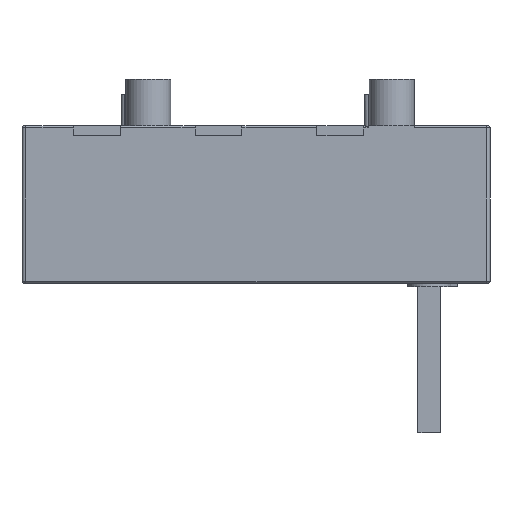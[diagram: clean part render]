
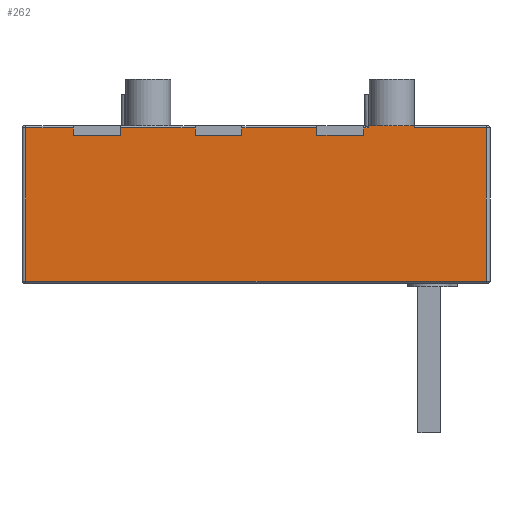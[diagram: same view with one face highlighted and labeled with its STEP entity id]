
A CAD part, front view. The second image highlights one B-rep face of the part: STEP entity #262.
In plain terms, the highlighted planar face has unit normal (0, -1, 0).
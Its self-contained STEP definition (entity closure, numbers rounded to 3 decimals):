
#133=FACE_OUTER_BOUND('',#703,.T.);
#262=ADVANCED_FACE('',(#133),#448,.T.);
#448=PLANE('',#3495);
#703=EDGE_LOOP('',(#1219,#1220,#1221,#1222,#1223,#1224,#1225,#1226,#1227,
#1228,#1229,#1230,#1231,#1232,#1233,#1234,#1235,#1236,#1237,#1238,#1239,
#1240));
#1219=ORIENTED_EDGE('',*,*,#2479,.F.);
#1220=ORIENTED_EDGE('',*,*,#2468,.T.);
#1221=ORIENTED_EDGE('',*,*,#2480,.F.);
#1222=ORIENTED_EDGE('',*,*,#2481,.F.);
#1223=ORIENTED_EDGE('',*,*,#2482,.F.);
#1224=ORIENTED_EDGE('',*,*,#2475,.T.);
#1225=ORIENTED_EDGE('',*,*,#2483,.F.);
#1226=ORIENTED_EDGE('',*,*,#2484,.T.);
#1227=ORIENTED_EDGE('',*,*,#2485,.T.);
#1228=ORIENTED_EDGE('',*,*,#2486,.T.);
#1229=ORIENTED_EDGE('',*,*,#2487,.T.);
#1230=ORIENTED_EDGE('',*,*,#2488,.F.);
#1231=ORIENTED_EDGE('',*,*,#2489,.F.);
#1232=ORIENTED_EDGE('',*,*,#2490,.T.);
#1233=ORIENTED_EDGE('',*,*,#2491,.T.);
#1234=ORIENTED_EDGE('',*,*,#2492,.T.);
#1235=ORIENTED_EDGE('',*,*,#2493,.T.);
#1236=ORIENTED_EDGE('',*,*,#2494,.T.);
#1237=ORIENTED_EDGE('',*,*,#2495,.T.);
#1238=ORIENTED_EDGE('',*,*,#2496,.T.);
#1239=ORIENTED_EDGE('',*,*,#2497,.F.);
#1240=ORIENTED_EDGE('',*,*,#2498,.F.);
#2139=VERTEX_POINT('',#4980);
#2140=VERTEX_POINT('',#4983);
#2143=VERTEX_POINT('',#4994);
#2144=VERTEX_POINT('',#4996);
#2147=VERTEX_POINT('',#5006);
#2148=VERTEX_POINT('',#5008);
#2149=VERTEX_POINT('',#5010);
#2150=VERTEX_POINT('',#5013);
#2151=VERTEX_POINT('',#5015);
#2152=VERTEX_POINT('',#5017);
#2153=VERTEX_POINT('',#5019);
#2154=VERTEX_POINT('',#5021);
#2155=VERTEX_POINT('',#5023);
#2156=VERTEX_POINT('',#5025);
#2157=VERTEX_POINT('',#5027);
#2158=VERTEX_POINT('',#5029);
#2159=VERTEX_POINT('',#5031);
#2160=VERTEX_POINT('',#5033);
#2161=VERTEX_POINT('',#5035);
#2162=VERTEX_POINT('',#5037);
#2163=VERTEX_POINT('',#5039);
#2164=VERTEX_POINT('',#5041);
#2468=EDGE_CURVE('',#2139,#2140,#2908,.T.);
#2475=EDGE_CURVE('',#2143,#2144,#2911,.T.);
#2479=EDGE_CURVE('',#2139,#2147,#2913,.T.);
#2480=EDGE_CURVE('',#2148,#2140,#2914,.T.);
#2481=EDGE_CURVE('',#2149,#2148,#2915,.T.);
#2482=EDGE_CURVE('',#2143,#2149,#2916,.T.);
#2483=EDGE_CURVE('',#2150,#2144,#2917,.T.);
#2484=EDGE_CURVE('',#2150,#2151,#2918,.T.);
#2485=EDGE_CURVE('',#2151,#2152,#2919,.T.);
#2486=EDGE_CURVE('',#2152,#2153,#2920,.T.);
#2487=EDGE_CURVE('',#2153,#2154,#2921,.T.);
#2488=EDGE_CURVE('',#2155,#2154,#2922,.T.);
#2489=EDGE_CURVE('',#2156,#2155,#2923,.T.);
#2490=EDGE_CURVE('',#2156,#2157,#2924,.T.);
#2491=EDGE_CURVE('',#2157,#2158,#2925,.T.);
#2492=EDGE_CURVE('',#2158,#2159,#2926,.T.);
#2493=EDGE_CURVE('',#2159,#2160,#2927,.T.);
#2494=EDGE_CURVE('',#2160,#2161,#2928,.T.);
#2495=EDGE_CURVE('',#2161,#2162,#2929,.T.);
#2496=EDGE_CURVE('',#2162,#2163,#2930,.T.);
#2497=EDGE_CURVE('',#2164,#2163,#2931,.T.);
#2498=EDGE_CURVE('',#2147,#2164,#2932,.T.);
#2908=LINE('',#4984,#3190);
#2911=LINE('',#4997,#3193);
#2913=LINE('',#5005,#3195);
#2914=LINE('',#5007,#3196);
#2915=LINE('',#5009,#3197);
#2916=LINE('',#5011,#3198);
#2917=LINE('',#5012,#3199);
#2918=LINE('',#5014,#3200);
#2919=LINE('',#5016,#3201);
#2920=LINE('',#5018,#3202);
#2921=LINE('',#5020,#3203);
#2922=LINE('',#5022,#3204);
#2923=LINE('',#5024,#3205);
#2924=LINE('',#5026,#3206);
#2925=LINE('',#5028,#3207);
#2926=LINE('',#5030,#3208);
#2927=LINE('',#5032,#3209);
#2928=LINE('',#5034,#3210);
#2929=LINE('',#5036,#3211);
#2930=LINE('',#5038,#3212);
#2931=LINE('',#5040,#3213);
#2932=LINE('',#5042,#3214);
#3190=VECTOR('',#3927,1.);
#3193=VECTOR('',#3942,1.);
#3195=VECTOR('',#3952,1.);
#3196=VECTOR('',#3953,1.);
#3197=VECTOR('',#3954,1.);
#3198=VECTOR('',#3955,1.);
#3199=VECTOR('',#3956,1.);
#3200=VECTOR('',#3957,1.);
#3201=VECTOR('',#3958,1.);
#3202=VECTOR('',#3959,1.);
#3203=VECTOR('',#3960,1.);
#3204=VECTOR('',#3961,1.);
#3205=VECTOR('',#3962,1.);
#3206=VECTOR('',#3963,1.);
#3207=VECTOR('',#3964,1.);
#3208=VECTOR('',#3965,1.);
#3209=VECTOR('',#3966,1.);
#3210=VECTOR('',#3967,1.);
#3211=VECTOR('',#3968,1.);
#3212=VECTOR('',#3969,1.);
#3213=VECTOR('',#3970,1.);
#3214=VECTOR('',#3971,1.);
#3495=AXIS2_PLACEMENT_3D('',#5043,#3972,#3973);
#3927=DIRECTION('',(-1.,0.,0.));
#3942=DIRECTION('',(-1.,0.,0.));
#3952=DIRECTION('',(0.,0.,-1.));
#3953=DIRECTION('',(0.,0.,1.));
#3954=DIRECTION('',(1.,0.,0.));
#3955=DIRECTION('',(0.,0.,-1.));
#3956=DIRECTION('',(0.,0.,1.));
#3957=DIRECTION('',(1.,0.,0.));
#3958=DIRECTION('',(0.,0.,1.));
#3959=DIRECTION('',(-1.,0.,0.));
#3960=DIRECTION('',(0.,0.,1.));
#3961=DIRECTION('',(1.,0.,0.));
#3962=DIRECTION('',(0.,0.,-1.));
#3963=DIRECTION('',(-1.,0.,0.));
#3964=DIRECTION('',(0.,0.,-1.));
#3965=DIRECTION('',(-1.,0.,0.));
#3966=DIRECTION('',(0.,0.,-1.));
#3967=DIRECTION('',(-1.,0.,0.));
#3968=DIRECTION('',(0.,0.,1.));
#3969=DIRECTION('',(-1.,0.,0.));
#3970=DIRECTION('',(0.,0.,1.));
#3971=DIRECTION('',(1.,0.,0.));
#3972=DIRECTION('',(0.,-1.,0.));
#3973=DIRECTION('',(1.,0.,0.));
#4980=CARTESIAN_POINT('',(-105.,-52.5,-1.));
#4983=CARTESIAN_POINT('',(-145.,-52.5,-1.));
#4984=CARTESIAN_POINT('',(-195.5,-52.5,-1.));
#4994=CARTESIAN_POINT('',(-170.,-52.5,-1.));
#4996=CARTESIAN_POINT('',(-195.5,-52.5,-1.));
#4997=CARTESIAN_POINT('',(-195.5,-52.5,-1.));
#5005=CARTESIAN_POINT('',(-105.,-52.5,4.));
#5006=CARTESIAN_POINT('',(-105.,-52.5,-5.));
#5007=CARTESIAN_POINT('',(-145.,-52.5,4.));
#5008=CARTESIAN_POINT('',(-145.,-52.5,-5.));
#5009=CARTESIAN_POINT('',(-12.,-52.5,-5.));
#5010=CARTESIAN_POINT('',(-170.,-52.5,-5.));
#5011=CARTESIAN_POINT('',(-170.,-52.5,4.));
#5012=CARTESIAN_POINT('',(-195.5,-52.5,-84.));
#5013=CARTESIAN_POINT('',(-195.5,-52.5,-83.));
#5014=CARTESIAN_POINT('',(-12.,-52.5,-83.));
#5015=CARTESIAN_POINT('',(50.5,-52.5,-83.));
#5016=CARTESIAN_POINT('',(50.5,-52.5,-84.));
#5017=CARTESIAN_POINT('',(50.5,-52.5,-1.));
#5018=CARTESIAN_POINT('',(12.,-52.5,-1.));
#5019=CARTESIAN_POINT('',(12.,-52.5,-1.));
#5020=CARTESIAN_POINT('',(12.,-52.5,4.));
#5021=CARTESIAN_POINT('',(12.,-52.5,0.));
#5022=CARTESIAN_POINT('',(50.5,-52.5,0.));
#5023=CARTESIAN_POINT('',(-12.,-52.5,0.));
#5024=CARTESIAN_POINT('',(-12.,-52.5,25.));
#5025=CARTESIAN_POINT('',(-12.,-52.5,17.));
#5026=CARTESIAN_POINT('',(7.5,-52.5,17.));
#5027=CARTESIAN_POINT('',(-12.5,-52.5,17.));
#5028=CARTESIAN_POINT('',(-12.5,-52.5,4.));
#5029=CARTESIAN_POINT('',(-12.5,-52.5,-1.));
#5030=CARTESIAN_POINT('',(-195.5,-52.5,-1.));
#5031=CARTESIAN_POINT('',(-15.,-52.5,-1.));
#5032=CARTESIAN_POINT('',(-15.,-52.5,4.));
#5033=CARTESIAN_POINT('',(-15.,-52.5,-5.));
#5034=CARTESIAN_POINT('',(-12.,-52.5,-5.));
#5035=CARTESIAN_POINT('',(-40.,-52.5,-5.));
#5036=CARTESIAN_POINT('',(-40.,-52.5,4.));
#5037=CARTESIAN_POINT('',(-40.,-52.5,-1.));
#5038=CARTESIAN_POINT('',(-195.5,-52.5,-1.));
#5039=CARTESIAN_POINT('',(-80.,-52.5,-1.));
#5040=CARTESIAN_POINT('',(-80.,-52.5,4.));
#5041=CARTESIAN_POINT('',(-80.,-52.5,-5.));
#5042=CARTESIAN_POINT('',(-12.,-52.5,-5.));
#5043=CARTESIAN_POINT('',(-12.,-52.5,4.));
